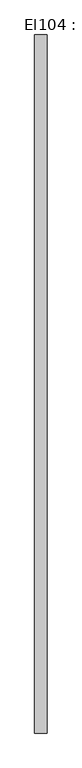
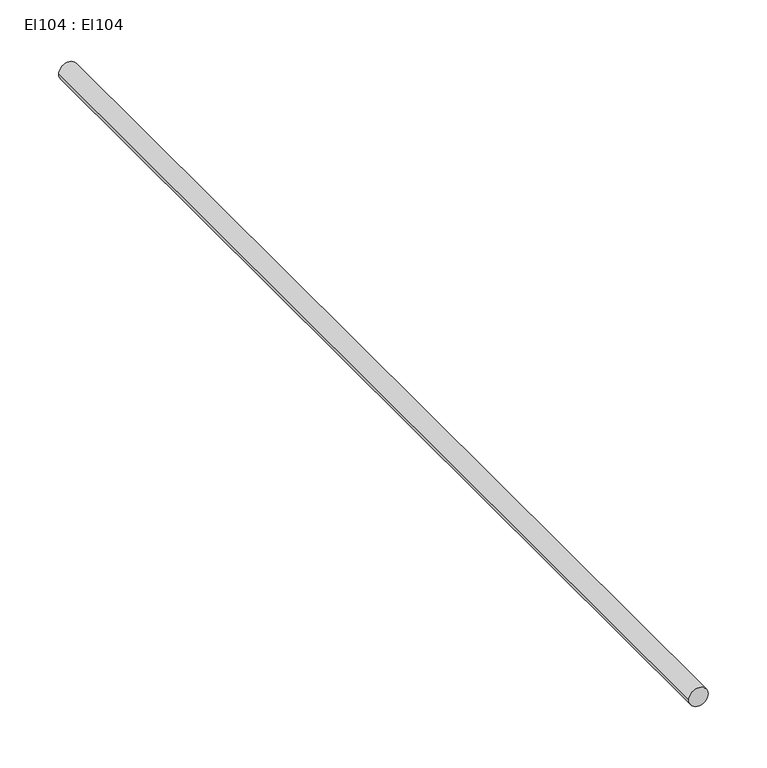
"""IFC4 building model written with IfcOpenShell, lengths in millimetres: cable carrier segment geometry, El104 : El104."""

from ifc_helpers import new_model, si_unit, point, frame, frame_2d, origin, place, context, project, spatial, circle_curve, trimmed, segment, composite_curve, outline, extrude, source, transform, mapped, element, save


def el104_el104_c66888ba(model_context):
    return source(origin(), model_context, "Body", "SweptSolid", [
        extrude(outline(composite_curve([segment(trimmed(circle_curve(frame_2d((300.0, 28930.0)), 9.5), [point((300.0, 28920.5))], [point((300.0, 28939.5))], False, "CARTESIAN"), True, "CONTINUOUS"), segment(trimmed(circle_curve(frame_2d((300.0, 28930.0)), 9.5), [point((300.0, 28939.5))], [point((300.0, 28920.5))], False, "CARTESIAN"), True, "CONTINUOUS")], self_intersect=False)), frame((0.0, 17961.272, 0.0), z_axis=(0.0, 1.0, 0.0), x_axis=(0.0, 0.0, 1.0)), (0.0, 0.0, 1.0), 1072.46),
    ])


if __name__ == "__main__":
    model = new_model("IFC4")
    model_context = context("Model", 3, world=origin())
    ifc_project = project(units=[si_unit("LENGTHUNIT", "METRE", prefix="MILLI")], contexts=[model_context])
    site = spatial("IfcSite", under=ifc_project)
    building = spatial("IfcBuilding", under=site)
    placement = place(None, origin())
    el104_el104_shape = el104_el104_c66888ba(model_context)
    element("IfcCableCarrierSegment", 1, ObjectType="El104 : El104", at=placement, inside=building, context=model_context, shape_type="MappedRepresentation", body=[
        mapped(el104_el104_shape, transform((0.0, 0.0, 0.0), x_axis=(1.0, 0.0, 0.0), y_axis=(0.0, 1.0, 0.0), z_axis=(0.0, 0.0, 1.0))),
    ])
    save(model, "model.ifc")
